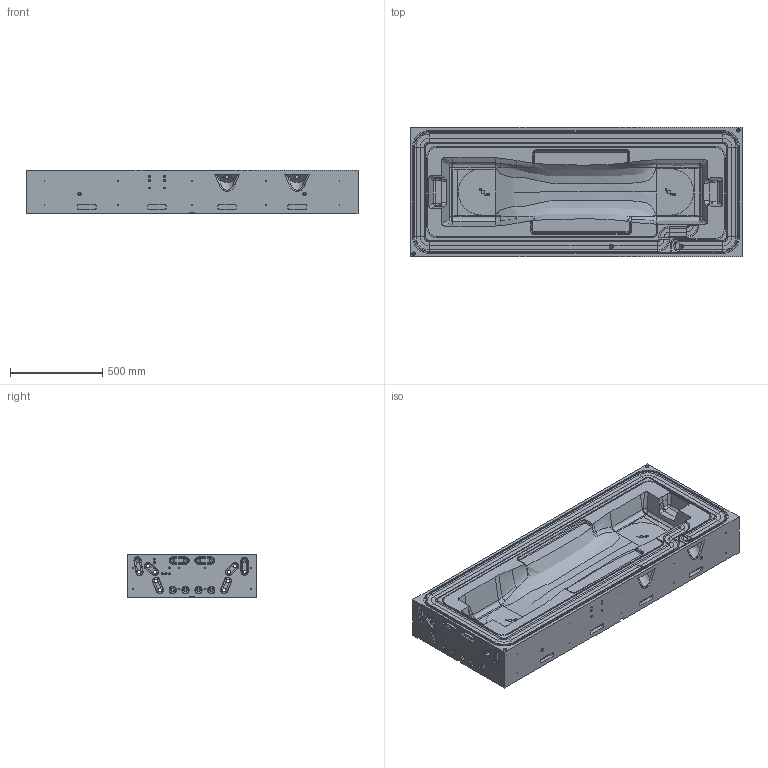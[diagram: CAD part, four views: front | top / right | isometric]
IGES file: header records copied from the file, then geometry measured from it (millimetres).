
Start section: START RECORD GO HERE.
Global section: file name: B-700-A-bloc_inferieur_LDB.igs; native system: IBM CATIA IGES - CATIA Version 5 Release 18 ; preprocessor: CATIA Version 5 Release 18 ; author: e-terrisse; organization: ORDIMOULE; date: 20110106.105750; units: millimetre
Bounding box: 1800 x 700 x 237.5 mm (x, y, z)
Surface area: 6170294.9 mm2 (no closed solid volume)
Topology: 0 solids, 1885 shells, 1885 faces, 10173 edges, 10035 vertices
Faces by surface type: plane 1065, revolution 753, bspline 67
